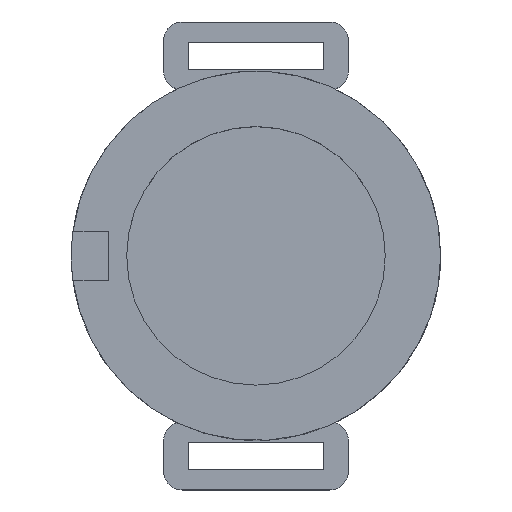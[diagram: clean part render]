
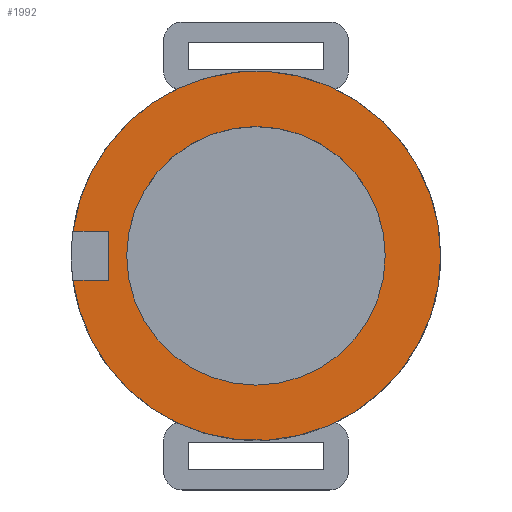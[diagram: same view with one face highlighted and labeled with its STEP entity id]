
A CAD part, top view. The second image highlights one B-rep face of the part: STEP entity #1992.
In plain terms, the highlighted planar face has unit normal (0, 0, 1).
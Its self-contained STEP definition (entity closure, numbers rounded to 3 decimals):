
#33 = CYLINDRICAL_SURFACE('',#34,6.);
#34 = AXIS2_PLACEMENT_3D('',#35,#36,#37);
#35 = CARTESIAN_POINT('',(0.,0.,0.));
#36 = DIRECTION('',(-0.,-0.,-1.));
#37 = DIRECTION('',(1.,0.,0.));
#113 = VERTEX_POINT('',#114);
#114 = CARTESIAN_POINT('',(6.,0.,4.2));
#135 = EDGE_CURVE('',#113,#136,#138,.T.);
#136 = VERTEX_POINT('',#137);
#137 = CARTESIAN_POINT('',(-5.946,0.8,4.2));
#138 = SURFACE_CURVE('',#139,(#144,#151),.PCURVE_S1.);
#139 = CIRCLE('',#140,6.);
#140 = AXIS2_PLACEMENT_3D('',#141,#142,#143);
#141 = CARTESIAN_POINT('',(0.,0.,4.2));
#142 = DIRECTION('',(0.,0.,1.));
#143 = DIRECTION('',(1.,0.,0.));
#144 = PCURVE('',#33,#145);
#145 = DEFINITIONAL_REPRESENTATION('',(#146),#150);
#146 = LINE('',#147,#148);
#147 = CARTESIAN_POINT('',(-0.,-4.2));
#148 = VECTOR('',#149,1.);
#149 = DIRECTION('',(-1.,0.));
#150 = ( GEOMETRIC_REPRESENTATION_CONTEXT(2) 
PARAMETRIC_REPRESENTATION_CONTEXT() REPRESENTATION_CONTEXT('2D SPACE',''
  ) );
#151 = PCURVE('',#152,#157);
#152 = PLANE('',#153);
#153 = AXIS2_PLACEMENT_3D('',#154,#155,#156);
#154 = CARTESIAN_POINT('',(0.,0.,4.2));
#155 = DIRECTION('',(0.,0.,1.));
#156 = DIRECTION('',(1.,0.,-0.));
#157 = DEFINITIONAL_REPRESENTATION('',(#158),#162);
#158 = CIRCLE('',#159,6.);
#159 = AXIS2_PLACEMENT_2D('',#160,#161);
#160 = CARTESIAN_POINT('',(0.,0.));
#161 = DIRECTION('',(1.,0.));
#162 = ( GEOMETRIC_REPRESENTATION_CONTEXT(2) 
PARAMETRIC_REPRESENTATION_CONTEXT() REPRESENTATION_CONTEXT('2D SPACE',''
  ) );
#179 = PLANE('',#180);
#180 = AXIS2_PLACEMENT_3D('',#181,#182,#183);
#181 = CARTESIAN_POINT('',(-7.2,0.8,3.));
#182 = DIRECTION('',(0.,1.,0.));
#183 = DIRECTION('',(0.,0.,1.));
#224 = VERTEX_POINT('',#225);
#225 = CARTESIAN_POINT('',(-5.946,-0.8,4.2));
#238 = PLANE('',#239);
#239 = AXIS2_PLACEMENT_3D('',#240,#241,#242);
#240 = CARTESIAN_POINT('',(-7.2,-0.8,3.));
#241 = DIRECTION('',(0.,1.,0.));
#242 = DIRECTION('',(0.,0.,1.));
#249 = EDGE_CURVE('',#224,#113,#250,.T.);
#250 = SURFACE_CURVE('',#251,(#256,#263),.PCURVE_S1.);
#251 = CIRCLE('',#252,6.);
#252 = AXIS2_PLACEMENT_3D('',#253,#254,#255);
#253 = CARTESIAN_POINT('',(0.,0.,4.2));
#254 = DIRECTION('',(0.,0.,1.));
#255 = DIRECTION('',(1.,0.,0.));
#256 = PCURVE('',#33,#257);
#257 = DEFINITIONAL_REPRESENTATION('',(#258),#262);
#258 = LINE('',#259,#260);
#259 = CARTESIAN_POINT('',(-0.,-4.2));
#260 = VECTOR('',#261,1.);
#261 = DIRECTION('',(-1.,0.));
#262 = ( GEOMETRIC_REPRESENTATION_CONTEXT(2) 
PARAMETRIC_REPRESENTATION_CONTEXT() REPRESENTATION_CONTEXT('2D SPACE',''
  ) );
#263 = PCURVE('',#152,#264);
#264 = DEFINITIONAL_REPRESENTATION('',(#265),#269);
#265 = CIRCLE('',#266,6.);
#266 = AXIS2_PLACEMENT_2D('',#267,#268);
#267 = CARTESIAN_POINT('',(0.,0.));
#268 = DIRECTION('',(1.,0.));
#269 = ( GEOMETRIC_REPRESENTATION_CONTEXT(2) 
PARAMETRIC_REPRESENTATION_CONTEXT() REPRESENTATION_CONTEXT('2D SPACE',''
  ) );
#1992 = ADVANCED_FACE('',(#1993,#2063),#152,.T.);
#1993 = FACE_BOUND('',#1994,.T.);
#1994 = EDGE_LOOP('',(#1995,#1996,#1997,#2018,#2044));
#1995 = ORIENTED_EDGE('',*,*,#249,.T.);
#1996 = ORIENTED_EDGE('',*,*,#135,.T.);
#1997 = ORIENTED_EDGE('',*,*,#1998,.F.);
#1998 = EDGE_CURVE('',#1999,#136,#2001,.T.);
#1999 = VERTEX_POINT('',#2000);
#2000 = CARTESIAN_POINT('',(-4.8,0.8,4.2));
#2001 = SURFACE_CURVE('',#2002,(#2006,#2012),.PCURVE_S1.);
#2002 = LINE('',#2003,#2004);
#2003 = CARTESIAN_POINT('',(-3.6,0.8,4.2));
#2004 = VECTOR('',#2005,1.);
#2005 = DIRECTION('',(-1.,0.,0.));
#2006 = PCURVE('',#152,#2007);
#2007 = DEFINITIONAL_REPRESENTATION('',(#2008),#2011);
#2008 = B_SPLINE_CURVE_WITH_KNOTS('',1,(#2009,#2010),.UNSPECIFIED.,.F.,
  .F.,(2,2),(1.2,2.4),.PIECEWISE_BEZIER_KNOTS.);
#2009 = CARTESIAN_POINT('',(-4.8,0.8));
#2010 = CARTESIAN_POINT('',(-6.,0.8));
#2011 = ( GEOMETRIC_REPRESENTATION_CONTEXT(2) 
PARAMETRIC_REPRESENTATION_CONTEXT() REPRESENTATION_CONTEXT('2D SPACE',''
  ) );
#2012 = PCURVE('',#179,#2013);
#2013 = DEFINITIONAL_REPRESENTATION('',(#2014),#2017);
#2014 = B_SPLINE_CURVE_WITH_KNOTS('',1,(#2015,#2016),.UNSPECIFIED.,.F.,
  .F.,(2,2),(1.2,2.4),.PIECEWISE_BEZIER_KNOTS.);
#2015 = CARTESIAN_POINT('',(1.2,2.4));
#2016 = CARTESIAN_POINT('',(1.2,1.2));
#2017 = ( GEOMETRIC_REPRESENTATION_CONTEXT(2) 
PARAMETRIC_REPRESENTATION_CONTEXT() REPRESENTATION_CONTEXT('2D SPACE',''
  ) );
#2018 = ORIENTED_EDGE('',*,*,#2019,.F.);
#2019 = EDGE_CURVE('',#2020,#1999,#2022,.T.);
#2020 = VERTEX_POINT('',#2021);
#2021 = CARTESIAN_POINT('',(-4.8,-0.8,4.2));
#2022 = SURFACE_CURVE('',#2023,(#2027,#2033),.PCURVE_S1.);
#2023 = LINE('',#2024,#2025);
#2024 = CARTESIAN_POINT('',(-4.8,-0.4,4.2));
#2025 = VECTOR('',#2026,1.);
#2026 = DIRECTION('',(0.,1.,0.));
#2027 = PCURVE('',#152,#2028);
#2028 = DEFINITIONAL_REPRESENTATION('',(#2029),#2032);
#2029 = B_SPLINE_CURVE_WITH_KNOTS('',1,(#2030,#2031),.UNSPECIFIED.,.F.,
  .F.,(2,2),(-0.4,1.2),.PIECEWISE_BEZIER_KNOTS.);
#2030 = CARTESIAN_POINT('',(-4.8,-0.8));
#2031 = CARTESIAN_POINT('',(-4.8,0.8));
#2032 = ( GEOMETRIC_REPRESENTATION_CONTEXT(2) 
PARAMETRIC_REPRESENTATION_CONTEXT() REPRESENTATION_CONTEXT('2D SPACE',''
  ) );
#2033 = PCURVE('',#2034,#2039);
#2034 = PLANE('',#2035);
#2035 = AXIS2_PLACEMENT_3D('',#2036,#2037,#2038);
#2036 = CARTESIAN_POINT('',(-4.8,-0.8,3.));
#2037 = DIRECTION('',(1.,0.,0.));
#2038 = DIRECTION('',(0.,0.,1.));
#2039 = DEFINITIONAL_REPRESENTATION('',(#2040),#2043);
#2040 = B_SPLINE_CURVE_WITH_KNOTS('',1,(#2041,#2042),.UNSPECIFIED.,.F.,
  .F.,(2,2),(-0.4,1.2),.PIECEWISE_BEZIER_KNOTS.);
#2041 = CARTESIAN_POINT('',(1.2,0.));
#2042 = CARTESIAN_POINT('',(1.2,-1.6));
#2043 = ( GEOMETRIC_REPRESENTATION_CONTEXT(2) 
PARAMETRIC_REPRESENTATION_CONTEXT() REPRESENTATION_CONTEXT('2D SPACE',''
  ) );
#2044 = ORIENTED_EDGE('',*,*,#2045,.T.);
#2045 = EDGE_CURVE('',#2020,#224,#2046,.T.);
#2046 = SURFACE_CURVE('',#2047,(#2051,#2057),.PCURVE_S1.);
#2047 = LINE('',#2048,#2049);
#2048 = CARTESIAN_POINT('',(-3.6,-0.8,4.2));
#2049 = VECTOR('',#2050,1.);
#2050 = DIRECTION('',(-1.,0.,0.));
#2051 = PCURVE('',#152,#2052);
#2052 = DEFINITIONAL_REPRESENTATION('',(#2053),#2056);
#2053 = B_SPLINE_CURVE_WITH_KNOTS('',1,(#2054,#2055),.UNSPECIFIED.,.F.,
  .F.,(2,2),(1.2,2.4),.PIECEWISE_BEZIER_KNOTS.);
#2054 = CARTESIAN_POINT('',(-4.8,-0.8));
#2055 = CARTESIAN_POINT('',(-6.,-0.8));
#2056 = ( GEOMETRIC_REPRESENTATION_CONTEXT(2) 
PARAMETRIC_REPRESENTATION_CONTEXT() REPRESENTATION_CONTEXT('2D SPACE',''
  ) );
#2057 = PCURVE('',#238,#2058);
#2058 = DEFINITIONAL_REPRESENTATION('',(#2059),#2062);
#2059 = B_SPLINE_CURVE_WITH_KNOTS('',1,(#2060,#2061),.UNSPECIFIED.,.F.,
  .F.,(2,2),(1.2,2.4),.PIECEWISE_BEZIER_KNOTS.);
#2060 = CARTESIAN_POINT('',(1.2,2.4));
#2061 = CARTESIAN_POINT('',(1.2,1.2));
#2062 = ( GEOMETRIC_REPRESENTATION_CONTEXT(2) 
PARAMETRIC_REPRESENTATION_CONTEXT() REPRESENTATION_CONTEXT('2D SPACE',''
  ) );
#2063 = FACE_BOUND('',#2064,.T.);
#2064 = EDGE_LOOP('',(#2065));
#2065 = ORIENTED_EDGE('',*,*,#2066,.T.);
#2066 = EDGE_CURVE('',#2067,#2067,#2069,.T.);
#2067 = VERTEX_POINT('',#2068);
#2068 = CARTESIAN_POINT('',(4.2,0.,4.2));
#2069 = SURFACE_CURVE('',#2070,(#2075,#2086),.PCURVE_S1.);
#2070 = CIRCLE('',#2071,4.2);
#2071 = AXIS2_PLACEMENT_3D('',#2072,#2073,#2074);
#2072 = CARTESIAN_POINT('',(0.,0.,4.2));
#2073 = DIRECTION('',(0.,0.,-1.));
#2074 = DIRECTION('',(1.,0.,0.));
#2075 = PCURVE('',#152,#2076);
#2076 = DEFINITIONAL_REPRESENTATION('',(#2077),#2085);
#2077 = ( BOUNDED_CURVE() B_SPLINE_CURVE(2,(#2078,#2079,#2080,#2081,
#2082,#2083,#2084),.UNSPECIFIED.,.T.,.F.) B_SPLINE_CURVE_WITH_KNOTS((1,2
    ,2,2,2,1),(-2.094,0.,2.094,4.189,
6.283,8.378),.UNSPECIFIED.) CURVE() 
GEOMETRIC_REPRESENTATION_ITEM() RATIONAL_B_SPLINE_CURVE((1.,0.5,1.,0.5,
1.,0.5,1.)) REPRESENTATION_ITEM('') );
#2078 = CARTESIAN_POINT('',(4.2,0.));
#2079 = CARTESIAN_POINT('',(4.2,-7.275));
#2080 = CARTESIAN_POINT('',(-2.1,-3.637));
#2081 = CARTESIAN_POINT('',(-8.4,0.));
#2082 = CARTESIAN_POINT('',(-2.1,3.637));
#2083 = CARTESIAN_POINT('',(4.2,7.275));
#2084 = CARTESIAN_POINT('',(4.2,0.));
#2085 = ( GEOMETRIC_REPRESENTATION_CONTEXT(2) 
PARAMETRIC_REPRESENTATION_CONTEXT() REPRESENTATION_CONTEXT('2D SPACE',''
  ) );
#2086 = PCURVE('',#2087,#2092);
#2087 = CYLINDRICAL_SURFACE('',#2088,4.2);
#2088 = AXIS2_PLACEMENT_3D('',#2089,#2090,#2091);
#2089 = CARTESIAN_POINT('',(0.,0.,0.9));
#2090 = DIRECTION('',(-0.,-0.,-1.));
#2091 = DIRECTION('',(1.,0.,0.));
#2092 = DEFINITIONAL_REPRESENTATION('',(#2093),#2097);
#2093 = LINE('',#2094,#2095);
#2094 = CARTESIAN_POINT('',(-6.283,-3.3));
#2095 = VECTOR('',#2096,1.);
#2096 = DIRECTION('',(1.,-0.));
#2097 = ( GEOMETRIC_REPRESENTATION_CONTEXT(2) 
PARAMETRIC_REPRESENTATION_CONTEXT() REPRESENTATION_CONTEXT('2D SPACE',''
  ) );
